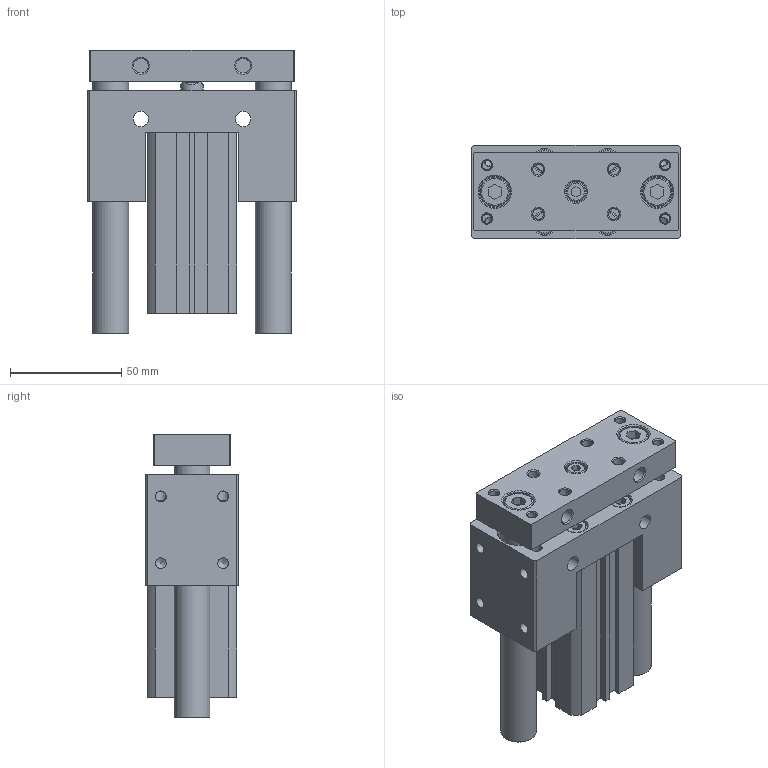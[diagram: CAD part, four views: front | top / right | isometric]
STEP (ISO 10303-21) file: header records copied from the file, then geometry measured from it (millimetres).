
FILE_DESCRIPTION((''),'2;1');
FILE_NAME('I:\3D電子目錄\氣缸\JCB\JCB\JCB25\JCB25x60.stp','2007-08-21T19:20:39',('Administrator'),(''),'Autodesk Inventor 11','Autodesk Inventor 11','');
FILE_SCHEMA(('AUTOMOTIVE_DESIGN { 1 0 10303 214 1 1 1 1 }'));
Length unit declared in the file: millimetre
Products named in the file (1): JCB25
Bounding box: 94 x 42 x 127.5 mm (x, y, z)
Volume: 300293.8 mm3; surface area: 85523.8 mm2
Topology: 5 solids, 5 shells, 323 faces, 740 edges, 483 vertices
Faces by surface type: plane 172, bspline 61, cylinder 47, cone 35, torus 8
Full cylindrical faces by diameter (mm): 1.5 x2, 4.917 x4, 5.1 x4, 6.647 x2, 8 x8, 8.5 x1, 10 x5, 11 x1, 13 x2, 16 x2, 17 x2, 18 x2, 28 x4, 29.4 x2
Entity records: 8980 total; most frequent: CARTESIAN_POINT 2309, DIRECTION 1332, ORIENTED_EDGE 1160, EDGE_CURVE 580, EDGE_LOOP 544, AXIS2_PLACEMENT_3D 493, VERTEX_POINT 454, VECTOR 346
